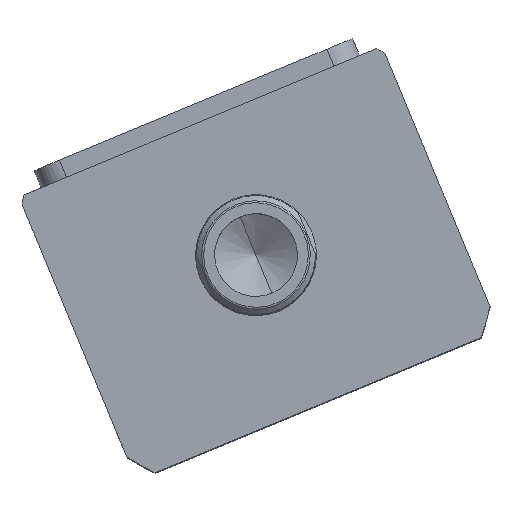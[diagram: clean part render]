
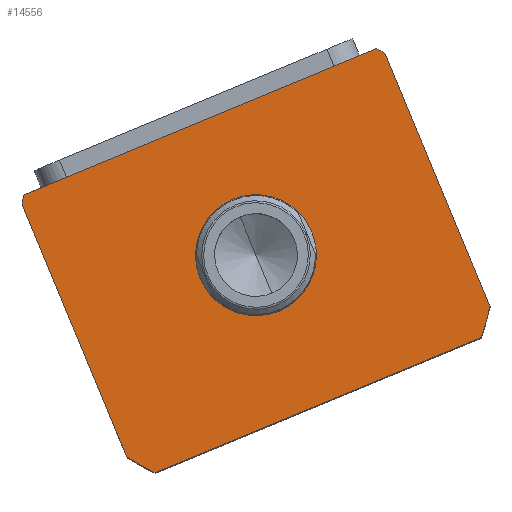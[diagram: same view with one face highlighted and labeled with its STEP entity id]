
A CAD part, top view. The second image highlights one B-rep face of the part: STEP entity #14556.
In plain terms, the highlighted planar face has unit normal (0, 0, 1) as drawn and (0, 0, -1) by its records, which use the part's own axes.
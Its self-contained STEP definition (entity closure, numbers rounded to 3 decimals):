
#76 = CARTESIAN_POINT ( 'NONE',  ( 51.198, -44.5, 0. ) ) ;
#243 = LINE ( 'NONE', #10880, #1164 ) ;
#439 = CARTESIAN_POINT ( 'NONE',  ( -57., 42.265, 0. ) ) ;
#492 = DIRECTION ( 'NONE',  ( 0., 0., 1. ) ) ;
#525 = AXIS2_PLACEMENT_3D ( 'NONE', #3856, #6814, #17034 ) ;
#600 = DIRECTION ( 'NONE',  ( 0., 0., 1. ) ) ;
#1164 = VECTOR ( 'NONE', #6436, 1000. ) ;
#1285 = DIRECTION ( 'NONE',  ( 0., 0., 1. ) ) ;
#1443 = CIRCLE ( 'NONE', #8875, 17.5 ) ;
#1582 = CIRCLE ( 'NONE', #9946, 17.5 ) ;
#1792 = CARTESIAN_POINT ( 'NONE',  ( 57., -37.265, 0. ) ) ;
#2034 = EDGE_CURVE ( 'NONE', #16384, #9248, #11512, .T. ) ;
#2469 = CARTESIAN_POINT ( 'NONE',  ( 0., 2.5, 0. ) ) ;
#2473 = VERTEX_POINT ( 'NONE', #6552 ) ;
#2753 = EDGE_CURVE ( 'NONE', #9248, #8556, #3016, .T. ) ;
#3016 = LINE ( 'NONE', #18678, #10842 ) ;
#3057 = ORIENTED_EDGE ( 'NONE', *, *, #2753, .F. ) ;
#3350 = EDGE_LOOP ( 'NONE', ( #8656, #5413 ) ) ;
#3461 = LINE ( 'NONE', #15439, #6902 ) ;
#3668 = DIRECTION ( 'NONE',  ( 0., 0., 1. ) ) ;
#3856 = CARTESIAN_POINT ( 'NONE',  ( 0., 0., 0. ) ) ;
#5178 = CARTESIAN_POINT ( 'NONE',  ( 0., 2.5, 0. ) ) ;
#5189 = DIRECTION ( 'NONE',  ( 0., -1., 0. ) ) ;
#5318 = PLANE ( 'NONE',  #525 ) ;
#5413 = ORIENTED_EDGE ( 'NONE', *, *, #17460, .T. ) ;
#5590 = CARTESIAN_POINT ( 'NONE',  ( -55.374, 44.5, 0. ) ) ;
#5607 = EDGE_CURVE ( 'NONE', #9998, #16384, #16962, .T. ) ;
#6102 = VERTEX_POINT ( 'NONE', #439 ) ;
#6436 = DIRECTION ( 'NONE',  ( 1., 0., 0. ) ) ;
#6552 = CARTESIAN_POINT ( 'NONE',  ( -51.198, -44.5, 0. ) ) ;
#6659 = DIRECTION ( 'NONE',  ( 1., 0., 0. ) ) ;
#6762 = VERTEX_POINT ( 'NONE', #13485 ) ;
#6814 = DIRECTION ( 'NONE',  ( 0., 0., 1. ) ) ;
#6902 = VECTOR ( 'NONE', #5189, 1000. ) ;
#7099 = CIRCLE ( 'NONE', #9586, 69.5 ) ;
#7183 = DIRECTION ( 'NONE',  ( 0., 0., 1. ) ) ;
#7817 = FACE_OUTER_BOUND ( 'NONE', #14789, .T. ) ;
#8378 = CIRCLE ( 'NONE', #12580, 69.5 ) ;
#8546 = DIRECTION ( 'NONE',  ( 1., 0., 0. ) ) ;
#8556 = VERTEX_POINT ( 'NONE', #5590 ) ;
#8656 = ORIENTED_EDGE ( 'NONE', *, *, #9653, .T. ) ;
#8859 = VERTEX_POINT ( 'NONE', #11068 ) ;
#8875 = AXIS2_PLACEMENT_3D ( 'NONE', #5178, #15426, #6659 ) ;
#9248 = VERTEX_POINT ( 'NONE', #10726 ) ;
#9284 = CARTESIAN_POINT ( 'NONE',  ( 0., 2.5, 0. ) ) ;
#9387 = CARTESIAN_POINT ( 'NONE',  ( 0., 2.5, 0. ) ) ;
#9395 = EDGE_CURVE ( 'NONE', #6102, #9492, #3461, .T. ) ;
#9492 = VERTEX_POINT ( 'NONE', #14213 ) ;
#9586 = AXIS2_PLACEMENT_3D ( 'NONE', #12455, #3668, #13928 ) ;
#9653 = EDGE_CURVE ( 'NONE', #8859, #6762, #1582, .T. ) ;
#9946 = AXIS2_PLACEMENT_3D ( 'NONE', #15945, #7183, #17410 ) ;
#9998 = VERTEX_POINT ( 'NONE', #1792 ) ;
#10152 = EDGE_CURVE ( 'NONE', #9492, #2473, #7099, .T. ) ;
#10480 = ORIENTED_EDGE ( 'NONE', *, *, #10152, .F. ) ;
#10726 = CARTESIAN_POINT ( 'NONE',  ( 55.374, 44.5, 0. ) ) ;
#10762 = DIRECTION ( 'NONE',  ( 1., 0., 0. ) ) ;
#10842 = VECTOR ( 'NONE', #12813, 1000. ) ;
#10879 = DIRECTION ( 'NONE',  ( 1., 0., 0. ) ) ;
#10880 = CARTESIAN_POINT ( 'NONE',  ( -57., -44.5, 0. ) ) ;
#11068 = CARTESIAN_POINT ( 'NONE',  ( 17.5, 2.5, 0. ) ) ;
#11512 = CIRCLE ( 'NONE', #14880, 69.5 ) ;
#11542 = CIRCLE ( 'NONE', #17333, 69.5 ) ;
#12455 = CARTESIAN_POINT ( 'NONE',  ( 0., 2.5, 0. ) ) ;
#12580 = AXIS2_PLACEMENT_3D ( 'NONE', #9387, #600, #10879 ) ;
#12813 = DIRECTION ( 'NONE',  ( -1., 0., 0. ) ) ;
#13105 = ORIENTED_EDGE ( 'NONE', *, *, #2034, .F. ) ;
#13485 = CARTESIAN_POINT ( 'NONE',  ( -17.5, 2.5, 0. ) ) ;
#13492 = VERTEX_POINT ( 'NONE', #76 ) ;
#13840 = EDGE_CURVE ( 'NONE', #2473, #13492, #243, .T. ) ;
#13928 = DIRECTION ( 'NONE',  ( 1., 0., 0. ) ) ;
#14213 = CARTESIAN_POINT ( 'NONE',  ( -57., -37.265, 0. ) ) ;
#14273 = ORIENTED_EDGE ( 'NONE', *, *, #13840, .F. ) ;
#14348 = ORIENTED_EDGE ( 'NONE', *, *, #5607, .F. ) ;
#14556 = ADVANCED_FACE ( 'NONE', ( #16038, #7817 ), #5318, .F. ) ;
#14789 = EDGE_LOOP ( 'NONE', ( #13105, #14348, #18189, #14273, #10480, #18751, #18608, #3057 ) ) ;
#14880 = AXIS2_PLACEMENT_3D ( 'NONE', #2469, #1285, #8546 ) ;
#15426 = DIRECTION ( 'NONE',  ( 0., 0., 1. ) ) ;
#15439 = CARTESIAN_POINT ( 'NONE',  ( -57., 44.5, 0. ) ) ;
#15945 = CARTESIAN_POINT ( 'NONE',  ( 0., 2.5, 0. ) ) ;
#16038 = FACE_BOUND ( 'NONE', #3350, .T. ) ;
#16236 = EDGE_CURVE ( 'NONE', #8556, #6102, #8378, .T. ) ;
#16384 = VERTEX_POINT ( 'NONE', #16727 ) ;
#16727 = CARTESIAN_POINT ( 'NONE',  ( 57., 42.265, 0. ) ) ;
#16876 = DIRECTION ( 'NONE',  ( 0., 1., 0. ) ) ;
#16962 = LINE ( 'NONE', #18961, #19004 ) ;
#17034 = DIRECTION ( 'NONE',  ( 1., 0., 0. ) ) ;
#17333 = AXIS2_PLACEMENT_3D ( 'NONE', #9284, #492, #10762 ) ;
#17410 = DIRECTION ( 'NONE',  ( 1., 0., 0. ) ) ;
#17460 = EDGE_CURVE ( 'NONE', #6762, #8859, #1443, .T. ) ;
#18189 = ORIENTED_EDGE ( 'NONE', *, *, #18720, .F. ) ;
#18608 = ORIENTED_EDGE ( 'NONE', *, *, #16236, .F. ) ;
#18678 = CARTESIAN_POINT ( 'NONE',  ( -57., 44.5, 0. ) ) ;
#18720 = EDGE_CURVE ( 'NONE', #13492, #9998, #11542, .T. ) ;
#18751 = ORIENTED_EDGE ( 'NONE', *, *, #9395, .F. ) ;
#18961 = CARTESIAN_POINT ( 'NONE',  ( 57., 44.5, 0. ) ) ;
#19004 = VECTOR ( 'NONE', #16876, 1000. ) ;
